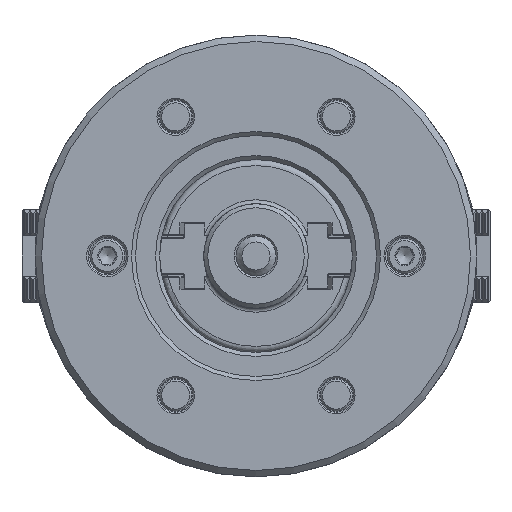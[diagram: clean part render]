
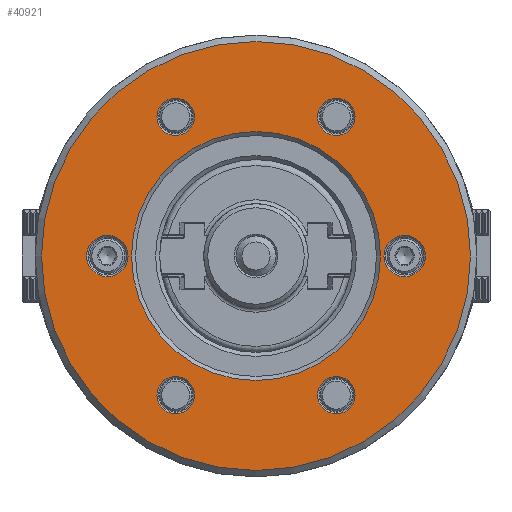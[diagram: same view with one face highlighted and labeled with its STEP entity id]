
A CAD part, left-side view. The second image highlights one B-rep face of the part: STEP entity #40921.
In plain terms, the highlighted planar face has unit normal (-1, 0, 0).
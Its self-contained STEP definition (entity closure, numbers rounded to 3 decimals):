
#2856 = DIRECTION ( 'NONE',  ( 0., 0., -1. ) ) ;
#3624 = CARTESIAN_POINT ( 'NONE',  ( -52., 0., 0. ) ) ;
#4410 = CARTESIAN_POINT ( 'NONE',  ( -52., -20., 29.991 ) ) ;
#4727 = FACE_BOUND ( 'NONE', #66804, .T. ) ;
#5021 = AXIS2_PLACEMENT_3D ( 'NONE', #13756, #55384, #2856 ) ;
#5193 = EDGE_CURVE ( 'NONE', #23560, #23560, #39663, .T. ) ;
#5550 = ORIENTED_EDGE ( 'NONE', *, *, #23227, .F. ) ;
#6494 = VERTEX_POINT ( 'NONE', #38517 ) ;
#7568 = AXIS2_PLACEMENT_3D ( 'NONE', #57588, #10170, #16651 ) ;
#8336 = DIRECTION ( 'NONE',  ( 0., 0., -1. ) ) ;
#8389 = DIRECTION ( 'NONE',  ( 0., 0., -1. ) ) ;
#9852 = FACE_BOUND ( 'NONE', #10953, .T. ) ;
#10170 = DIRECTION ( 'NONE',  ( 1., 0., 0. ) ) ;
#10201 = ORIENTED_EDGE ( 'NONE', *, *, #31447, .F. ) ;
#10292 = AXIS2_PLACEMENT_3D ( 'NONE', #51801, #25847, #15648 ) ;
#10953 = EDGE_LOOP ( 'NONE', ( #65185 ) ) ;
#11274 = EDGE_LOOP ( 'NONE', ( #29751 ) ) ;
#11398 = DIRECTION ( 'NONE',  ( 0., 0., -1. ) ) ;
#13509 = DIRECTION ( 'NONE',  ( 1., 0., 0. ) ) ;
#13544 = EDGE_LOOP ( 'NONE', ( #10201 ) ) ;
#13756 = CARTESIAN_POINT ( 'NONE',  ( -52., 0., 0. ) ) ;
#14275 = CIRCLE ( 'NONE', #52424, 5.15 ) ;
#14673 = EDGE_CURVE ( 'NONE', #50849, #50849, #26743, .T. ) ;
#15190 = CIRCLE ( 'NONE', #41332, 5.15 ) ;
#15351 = AXIS2_PLACEMENT_3D ( 'NONE', #29128, #28792, #8336 ) ;
#15364 = CIRCLE ( 'NONE', #17695, 4.65 ) ;
#15648 = DIRECTION ( 'NONE',  ( 0., 0., -1. ) ) ;
#16488 = CIRCLE ( 'NONE', #49162, 4.65 ) ;
#16651 = DIRECTION ( 'NONE',  ( 0., 0., -1. ) ) ;
#17695 = AXIS2_PLACEMENT_3D ( 'NONE', #52463, #19738, #25165 ) ;
#18060 = CARTESIAN_POINT ( 'NONE',  ( -52., 20., 29.991 ) ) ;
#19738 = DIRECTION ( 'NONE',  ( 1., 0., 0. ) ) ;
#20821 = VERTEX_POINT ( 'NONE', #62789 ) ;
#21387 = FACE_BOUND ( 'NONE', #36009, .T. ) ;
#21966 = CARTESIAN_POINT ( 'NONE',  ( -52., 20., 34.641 ) ) ;
#22150 = VERTEX_POINT ( 'NONE', #18060 ) ;
#23227 = EDGE_CURVE ( 'NONE', #20821, #20821, #14275, .T. ) ;
#23560 = VERTEX_POINT ( 'NONE', #44375 ) ;
#24334 = CARTESIAN_POINT ( 'NONE',  ( -52., 37., 0. ) ) ;
#25165 = DIRECTION ( 'NONE',  ( 0., 0., -1. ) ) ;
#25847 = DIRECTION ( 'NONE',  ( 1., 0., 0. ) ) ;
#26205 = CARTESIAN_POINT ( 'NONE',  ( -52., -37., 0. ) ) ;
#26743 = CIRCLE ( 'NONE', #64946, 31. ) ;
#28792 = DIRECTION ( 'NONE',  ( 1., 0., 0. ) ) ;
#29128 = CARTESIAN_POINT ( 'NONE',  ( -52., 20., -34.641 ) ) ;
#29751 = ORIENTED_EDGE ( 'NONE', *, *, #36200, .F. ) ;
#31447 = EDGE_CURVE ( 'NONE', #6494, #6494, #15190, .T. ) ;
#31935 = FACE_BOUND ( 'NONE', #43642, .T. ) ;
#33721 = CARTESIAN_POINT ( 'NONE',  ( -52., 0., -53.4 ) ) ;
#34730 = VERTEX_POINT ( 'NONE', #33721 ) ;
#34915 = EDGE_CURVE ( 'NONE', #22150, #22150, #16488, .T. ) ;
#34975 = ORIENTED_EDGE ( 'NONE', *, *, #34915, .T. ) ;
#36009 = EDGE_LOOP ( 'NONE', ( #5550 ) ) ;
#36200 = EDGE_CURVE ( 'NONE', #34730, #34730, #60563, .T. ) ;
#36753 = FACE_OUTER_BOUND ( 'NONE', #11274, .T. ) ;
#37335 = ORIENTED_EDGE ( 'NONE', *, *, #14673, .T. ) ;
#37832 = EDGE_LOOP ( 'NONE', ( #34975 ) ) ;
#38152 = DIRECTION ( 'NONE',  ( 0., 0., 1. ) ) ;
#38517 = CARTESIAN_POINT ( 'NONE',  ( -52., -37., 5.15 ) ) ;
#39663 = CIRCLE ( 'NONE', #10292, 4.65 ) ;
#39697 = EDGE_LOOP ( 'NONE', ( #49251 ) ) ;
#40921 = ADVANCED_FACE ( 'NONE', ( #52131, #57936, #41553, #21387, #4727, #9852, #36753, #31935 ), #52784, .F. ) ;
#41332 = AXIS2_PLACEMENT_3D ( 'NONE', #26205, #63438, #38152 ) ;
#41553 = FACE_BOUND ( 'NONE', #37832, .T. ) ;
#43642 = EDGE_LOOP ( 'NONE', ( #37335 ) ) ;
#44375 = CARTESIAN_POINT ( 'NONE',  ( -52., -20., -39.291 ) ) ;
#45148 = DIRECTION ( 'NONE',  ( -1., 0., 0. ) ) ;
#46676 = CARTESIAN_POINT ( 'NONE',  ( -52., 20., -39.291 ) ) ;
#49162 = AXIS2_PLACEMENT_3D ( 'NONE', #21966, #58837, #11398 ) ;
#49251 = ORIENTED_EDGE ( 'NONE', *, *, #63504, .T. ) ;
#50849 = VERTEX_POINT ( 'NONE', #62148 ) ;
#51127 = VERTEX_POINT ( 'NONE', #4410 ) ;
#51801 = CARTESIAN_POINT ( 'NONE',  ( -52., -20., -34.641 ) ) ;
#52131 = FACE_BOUND ( 'NONE', #13544, .T. ) ;
#52424 = AXIS2_PLACEMENT_3D ( 'NONE', #24334, #45148, #66005 ) ;
#52463 = CARTESIAN_POINT ( 'NONE',  ( -52., -20., 34.641 ) ) ;
#52784 = PLANE ( 'NONE',  #7568 ) ;
#55384 = DIRECTION ( 'NONE',  ( 1., 0., 0. ) ) ;
#56741 = CIRCLE ( 'NONE', #15351, 4.65 ) ;
#57588 = CARTESIAN_POINT ( 'NONE',  ( -52., -53.4, 0. ) ) ;
#57936 = FACE_BOUND ( 'NONE', #39697, .T. ) ;
#58837 = DIRECTION ( 'NONE',  ( 1., 0., 0. ) ) ;
#60563 = CIRCLE ( 'NONE', #5021, 53.4 ) ;
#61105 = EDGE_CURVE ( 'NONE', #51127, #51127, #15364, .T. ) ;
#62148 = CARTESIAN_POINT ( 'NONE',  ( -52., 0., -31. ) ) ;
#62789 = CARTESIAN_POINT ( 'NONE',  ( -52., 37., 5.15 ) ) ;
#63438 = DIRECTION ( 'NONE',  ( -1., 0., 0. ) ) ;
#63504 = EDGE_CURVE ( 'NONE', #66856, #66856, #56741, .T. ) ;
#64946 = AXIS2_PLACEMENT_3D ( 'NONE', #3624, #13509, #8389 ) ;
#64970 = ORIENTED_EDGE ( 'NONE', *, *, #5193, .T. ) ;
#65185 = ORIENTED_EDGE ( 'NONE', *, *, #61105, .T. ) ;
#66005 = DIRECTION ( 'NONE',  ( 0., 0., 1. ) ) ;
#66804 = EDGE_LOOP ( 'NONE', ( #64970 ) ) ;
#66856 = VERTEX_POINT ( 'NONE', #46676 ) ;
